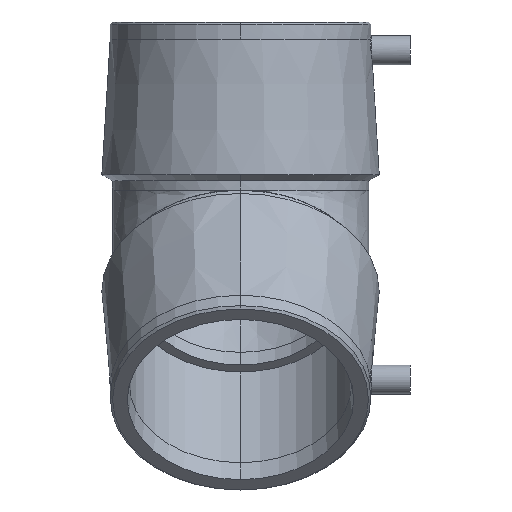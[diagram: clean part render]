
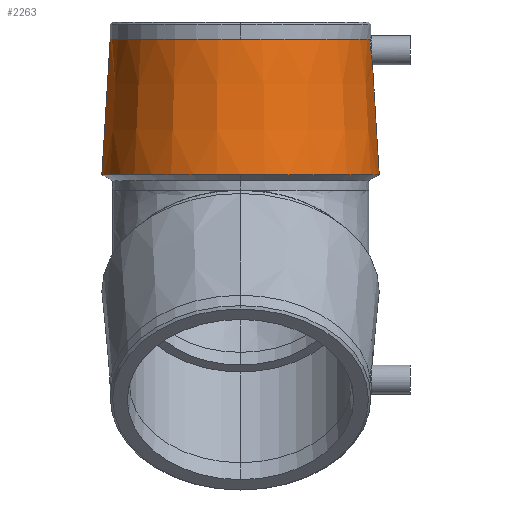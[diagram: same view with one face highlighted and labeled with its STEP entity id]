
A CAD part, left-side view. The second image highlights one B-rep face of the part: STEP entity #2263.
In plain terms, the highlighted conical face has half-angle 3.5 degrees and reference radius 56.745 mm.
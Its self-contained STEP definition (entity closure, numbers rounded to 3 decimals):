
#14 = CARTESIAN_POINT ( 'NONE',  ( -53.35, 0., 83.5 ) ) ;
#136 = EDGE_CURVE ( 'NONE', #434, #481, #1666, .T. ) ;
#139 = EDGE_CURVE ( 'NONE', #428, #420, #1517, .T. ) ;
#140 = EDGE_CURVE ( 'NONE', #482, #497, #1496, .T. ) ;
#205 = EDGE_CURVE ( 'NONE', #481, #482, #582, .T. ) ;
#248 = ORIENTED_EDGE ( 'NONE', *, *, #2281, .F. ) ;
#420 = VERTEX_POINT ( 'NONE', #1828 ) ;
#428 = VERTEX_POINT ( 'NONE', #1696 ) ;
#433 = VERTEX_POINT ( 'NONE', #1701 ) ;
#434 = VERTEX_POINT ( 'NONE', #1702 ) ;
#435 = VERTEX_POINT ( 'NONE', #1703 ) ;
#481 = VERTEX_POINT ( 'NONE', #1749 ) ;
#482 = VERTEX_POINT ( 'NONE', #1750 ) ;
#497 = VERTEX_POINT ( 'NONE', #14 ) ;
#509 = ORIENTED_EDGE ( 'NONE', *, *, #136, .T. ) ;
#510 = ORIENTED_EDGE ( 'NONE', *, *, #205, .T. ) ;
#511 = ORIENTED_EDGE ( 'NONE', *, *, #140, .T. ) ;
#512 = ORIENTED_EDGE ( 'NONE', *, *, #2275, .T. ) ;
#513 = ORIENTED_EDGE ( 'NONE', *, *, #2282, .T. ) ;
#514 = ORIENTED_EDGE ( 'NONE', *, *, #2269, .T. ) ;
#515 = ORIENTED_EDGE ( 'NONE', *, *, #139, .T. ) ;
#516 = CARTESIAN_POINT ( 'NONE',  ( -0.333, -53.992, 73. ) ) ;
#522 = CARTESIAN_POINT ( 'NONE',  ( -0.666, -53.987, 73.028 ) ) ;
#527 = CARTESIAN_POINT ( 'NONE',  ( 0., -53.992, 73. ) ) ;
#528 = CARTESIAN_POINT ( 'NONE',  ( -1.317, -53.969, 73.137 ) ) ;
#529 = CARTESIAN_POINT ( 'NONE',  ( -1.636, -53.955, 73.218 ) ) ;
#530 = CARTESIAN_POINT ( 'NONE',  ( -2.265, -53.919, 73.434 ) ) ;
#531 = CARTESIAN_POINT ( 'NONE',  ( -2.57, -53.897, 73.568 ) ) ;
#532 = CARTESIAN_POINT ( 'NONE',  ( -3.149, -53.847, 73.882 ) ) ;
#533 = CARTESIAN_POINT ( 'NONE',  ( -3.424, -53.819, 74.062 ) ) ;
#534 = CARTESIAN_POINT ( 'NONE',  ( -3.947, -53.758, 74.469 ) ) ;
#535 = CARTESIAN_POINT ( 'NONE',  ( -4.192, -53.726, 74.695 ) ) ;
#536 = CARTESIAN_POINT ( 'NONE',  ( -4.637, -53.66, 75.178 ) ) ;
#537 = CARTESIAN_POINT ( 'NONE',  ( -4.839, -53.626, 75.437 ) ) ;
#538 = CARTESIAN_POINT ( 'NONE',  ( -5.201, -53.558, 75.99 ) ) ;
#539 = CARTESIAN_POINT ( 'NONE',  ( -5.36, -53.524, 76.283 ) ) ;
#540 = CARTESIAN_POINT ( 'NONE',  ( -5.625, -53.46, 76.886 ) ) ;
#541 = CARTESIAN_POINT ( 'NONE',  ( -5.733, -53.429, 77.198 ) ) ;
#542 = CARTESIAN_POINT ( 'NONE',  ( -5.815, -53.4, 77.521 ) ) ;
#556 = CARTESIAN_POINT ( 'NONE',  ( 0., 0., 28. ) ) ;
#557 = DIRECTION ( 'NONE',  ( 0., 0., 1. ) ) ;
#558 = DIRECTION ( 'NONE',  ( 1., 0., 0. ) ) ;
#559 = CARTESIAN_POINT ( 'NONE',  ( 0., 0., 83.5 ) ) ;
#560 = DIRECTION ( 'NONE',  ( 0., 0., -1. ) ) ;
#561 = DIRECTION ( 'NONE',  ( 1., 0., 0. ) ) ;
#582 = B_SPLINE_CURVE_WITH_KNOTS ( 'NONE', 3,
 ( #1100, #1098, #1838, #1839, #1840, #1841, #1842, #1843, #1844, #1845, #1846, #1847, #1848, #1849, #1850, #1851 ),
 .UNSPECIFIED., .F., .F.,
 ( 4, 2, 2, 2, 2, 2, 2, 4 ),
 ( -0.002, -0.001, 0., 0.002, 0.003, 0.003, 0.004, 0.005 ),
 .UNSPECIFIED. ) ;
#1010 = DIRECTION ( 'NONE',  ( 0., 1., 0. ) ) ;
#1014 = FACE_OUTER_BOUND ( 'NONE', #1197, .T. ) ;
#1015 = DIRECTION ( 'NONE',  ( 0., 0., -1. ) ) ;
#1016 = CARTESIAN_POINT ( 'NONE',  ( 0., 0., 28. ) ) ;
#1098 = CARTESIAN_POINT ( 'NONE',  ( -5.907, -53.374, 77.779 ) ) ;
#1100 = CARTESIAN_POINT ( 'NONE',  ( -5.815, -53.4, 77.521 ) ) ;
#1197 = EDGE_LOOP ( 'NONE', ( #248, #509, #510, #511, #512, #513, #514, #515 ) ) ;
#1247 = VECTOR ( 'NONE', #1978, 1000. ) ;
#1251 = VECTOR ( 'NONE', #1975, 1000. ) ;
#1254 = AXIS2_PLACEMENT_3D ( 'NONE', #1933, #1934, #1935 ) ;
#1256 = CIRCLE ( 'NONE', #1254, 53.35 ) ;
#1263 = AXIS2_PLACEMENT_3D ( 'NONE', #1656, #1916, #1917 ) ;
#1268 = AXIS2_PLACEMENT_3D ( 'NONE', #1016, #1015, #1010 ) ;
#1269 = CONICAL_SURFACE ( 'NONE', #1268, 56.745, 0.061 ) ;
#1282 = CIRCLE ( 'NONE', #1263, 56.745 ) ;
#1489 = AXIS2_PLACEMENT_3D ( 'NONE', #559, #560, #561 ) ;
#1490 = AXIS2_PLACEMENT_3D ( 'NONE', #556, #557, #558 ) ;
#1496 = CIRCLE ( 'NONE', #1489, 53.35 ) ;
#1517 = CIRCLE ( 'NONE', #1490, 56.745 ) ;
#1656 = CARTESIAN_POINT ( 'NONE',  ( 0., 0., 28. ) ) ;
#1666 = B_SPLINE_CURVE_WITH_KNOTS ( 'NONE', 3,
 ( #527, #516, #522, #528, #529, #530, #531, #532, #533, #534, #535, #536, #537, #538, #539, #540, #541, #542 ),
 .UNSPECIFIED., .F., .F.,
 ( 4, 2, 2, 2, 2, 2, 2, 2, 4 ),
 ( 0.008, 0.009, 0.01, 0.011, 0.012, 0.013, 0.014, 0.015, 0.016 ),
 .UNSPECIFIED. ) ;
#1696 = CARTESIAN_POINT ( 'NONE',  ( -56.745, 0., 28. ) ) ;
#1701 = CARTESIAN_POINT ( 'NONE',  ( 0., 56.745, 28. ) ) ;
#1702 = CARTESIAN_POINT ( 'NONE',  ( 0., -53.992, 73. ) ) ;
#1703 = CARTESIAN_POINT ( 'NONE',  ( 0., 53.35, 83.5 ) ) ;
#1749 = CARTESIAN_POINT ( 'NONE',  ( -5.815, -53.4, 77.521 ) ) ;
#1750 = CARTESIAN_POINT ( 'NONE',  ( -4.299, -53.177, 83.5 ) ) ;
#1828 = CARTESIAN_POINT ( 'NONE',  ( 0., -56.745, 28. ) ) ;
#1838 = CARTESIAN_POINT ( 'NONE',  ( -5.98, -53.35, 78.041 ) ) ;
#1839 = CARTESIAN_POINT ( 'NONE',  ( -6.086, -53.305, 78.573 ) ) ;
#1840 = CARTESIAN_POINT ( 'NONE',  ( -6.12, -53.284, 78.845 ) ) ;
#1841 = CARTESIAN_POINT ( 'NONE',  ( -6.159, -53.229, 79.664 ) ) ;
#1842 = CARTESIAN_POINT ( 'NONE',  ( -6.104, -53.203, 80.203 ) ) ;
#1843 = CARTESIAN_POINT ( 'NONE',  ( -5.9, -53.177, 81. ) ) ;
#1844 = CARTESIAN_POINT ( 'NONE',  ( -5.812, -53.17, 81.259 ) ) ;
#1845 = CARTESIAN_POINT ( 'NONE',  ( -5.601, -53.162, 81.759 ) ) ;
#1846 = CARTESIAN_POINT ( 'NONE',  ( -5.477, -53.16, 82.001 ) ) ;
#1847 = CARTESIAN_POINT ( 'NONE',  ( -5.195, -53.16, 82.468 ) ) ;
#1848 = CARTESIAN_POINT ( 'NONE',  ( -5.035, -53.162, 82.693 ) ) ;
#1849 = CARTESIAN_POINT ( 'NONE',  ( -4.689, -53.167, 83.115 ) ) ;
#1850 = CARTESIAN_POINT ( 'NONE',  ( -4.501, -53.172, 83.314 ) ) ;
#1851 = CARTESIAN_POINT ( 'NONE',  ( -4.299, -53.177, 83.5 ) ) ;
#1916 = DIRECTION ( 'NONE',  ( 0., 0., 1. ) ) ;
#1917 = DIRECTION ( 'NONE',  ( 1., 0., 0. ) ) ;
#1933 = CARTESIAN_POINT ( 'NONE',  ( 0., 0., 83.5 ) ) ;
#1934 = DIRECTION ( 'NONE',  ( 0., 0., -1. ) ) ;
#1935 = DIRECTION ( 'NONE',  ( 1., 0., 0. ) ) ;
#1950 = LINE ( 'NONE', #1959, #1251 ) ;
#1959 = CARTESIAN_POINT ( 'NONE',  ( 0., -56.745, 28. ) ) ;
#1975 = DIRECTION ( 'NONE',  ( 0., -0.061, -0.998 ) ) ;
#1976 = LINE ( 'NONE', #1977, #1247 ) ;
#1977 = CARTESIAN_POINT ( 'NONE',  ( 0., 56.745, 28. ) ) ;
#1978 = DIRECTION ( 'NONE',  ( 0., 0.061, -0.998 ) ) ;
#2263 = ADVANCED_FACE ( 'NONE', ( #1014 ), #1269, .T. ) ;
#2269 = EDGE_CURVE ( 'NONE', #433, #428, #1282, .T. ) ;
#2275 = EDGE_CURVE ( 'NONE', #497, #435, #1256, .T. ) ;
#2281 = EDGE_CURVE ( 'NONE', #434, #420, #1950, .T. ) ;
#2282 = EDGE_CURVE ( 'NONE', #435, #433, #1976, .T. ) ;
